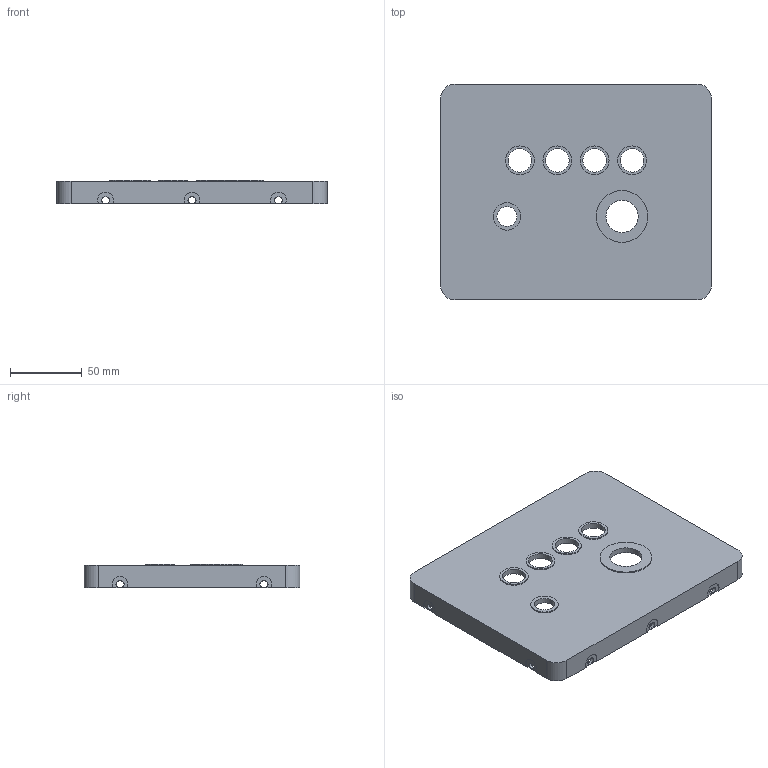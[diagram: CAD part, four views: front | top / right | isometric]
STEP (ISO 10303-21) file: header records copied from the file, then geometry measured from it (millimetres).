
FILE_DESCRIPTION(('CATIA V5 STEP Exchange','CAx-IF Rec.Pracs.--- Model Styling and Organization---1.5--- 2016-08-15','CAx-IF Rec.Pracs.---Supplemental Geometry---1.0---2011-11-01','CAx-IF Rec.Pracs.--- Composite Materials ---3.4---2017-06-13','CAx-IF Rec.Pracs.---Tessellated 3D Geometry---1.0---2015-12-17'),'2;1');
FILE_NAME('C:\Users\icemi\Desktop\RZS_Repository\RES\catia_macros\generated\RES_Enclosure_20260730_133316\RES_TopCover.stp','2026-07-30T05:34:51+00:00',('none'),('none'),'CATIA Version 5-6 Release 2022 SP6','CATIA V5 STEP AP242 v3','none');
FILE_SCHEMA(('AP242_MANAGED_MODEL_BASED_3D_ENGINEERING_MIM_LF {1 0 10303 442 1 1 4}'));
Length unit declared in the file: millimetre
Products named in the file (1): Part65
Bounding box: 188 x 150 x 16.3 mm (x, y, z)
Volume: 112413.8 mm3; surface area: 75599.3 mm2
Topology: 1 solids, 1 shells, 144 faces, 408 edges, 276 vertices
Faces by surface type: cylinder 86, plane 58
Entity records: 4313 total; most frequent: ORIENTED_EDGE 816, CARTESIAN_POINT 757, DIRECTION 552, EDGE_CURVE 408, VERTEX_POINT 276, AXIS2_PLACEMENT_3D 245, VECTOR 236, LINE 236
